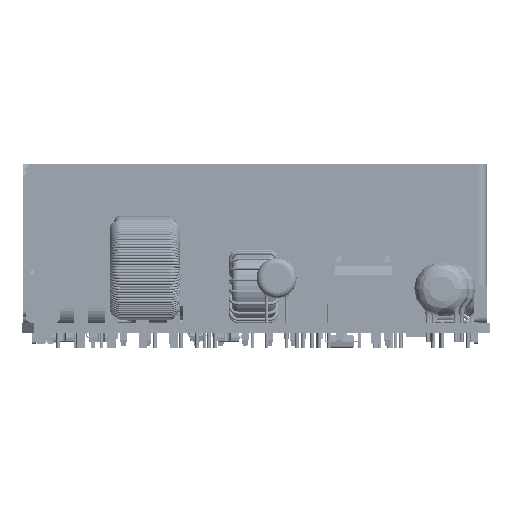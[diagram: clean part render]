
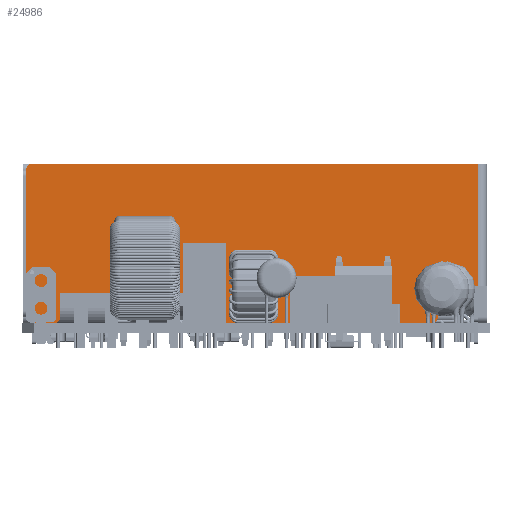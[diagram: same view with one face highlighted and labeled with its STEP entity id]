
A CAD part, left-side view. The second image highlights one B-rep face of the part: STEP entity #24986.
In plain terms, the highlighted planar face has unit normal (-1, 0, 0).
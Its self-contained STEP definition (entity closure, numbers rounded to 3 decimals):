
#13873=LINE('',#162734,#18253);
#13890=LINE('',#162778,#18270);
#13891=LINE('',#162782,#18271);
#13892=LINE('',#162786,#18272);
#13893=LINE('',#162790,#18273);
#13894=LINE('',#162792,#18274);
#13895=LINE('',#162794,#18275);
#13896=LINE('',#162798,#18276);
#13897=LINE('',#162802,#18277);
#13898=LINE('',#162804,#18278);
#18253=VECTOR('',#113183,1.);
#18270=VECTOR('',#113228,1.);
#18271=VECTOR('',#113233,1.);
#18272=VECTOR('',#113236,1.);
#18273=VECTOR('',#113239,1.);
#18274=VECTOR('',#113240,1.);
#18275=VECTOR('',#113241,1.);
#18276=VECTOR('',#113244,1.);
#18277=VECTOR('',#113247,1.);
#18278=VECTOR('',#113248,1.);
#24986=ADVANCED_FACE('',(#31009),#26631,.T.);
#26631=PLANE('',#90727);
#31009=FACE_OUTER_BOUND('',#36042,.T.);
#36042=EDGE_LOOP('',(#55399,#55400,#55401,#55402,#55403,#55404,#55405,#55406,
#55407,#55408,#55409,#55410,#55411,#55412,#55413));
#55399=ORIENTED_EDGE('',*,*,#74726,.F.);
#55400=ORIENTED_EDGE('',*,*,#74727,.T.);
#55401=ORIENTED_EDGE('',*,*,#74728,.F.);
#55402=ORIENTED_EDGE('',*,*,#74729,.T.);
#55403=ORIENTED_EDGE('',*,*,#74730,.T.);
#55404=ORIENTED_EDGE('',*,*,#74731,.T.);
#55405=ORIENTED_EDGE('',*,*,#74732,.T.);
#55406=ORIENTED_EDGE('',*,*,#74733,.T.);
#55407=ORIENTED_EDGE('',*,*,#74734,.F.);
#55408=ORIENTED_EDGE('',*,*,#74735,.T.);
#55409=ORIENTED_EDGE('',*,*,#74736,.T.);
#55410=ORIENTED_EDGE('',*,*,#74737,.T.);
#55411=ORIENTED_EDGE('',*,*,#74738,.T.);
#55412=ORIENTED_EDGE('',*,*,#74739,.F.);
#55413=ORIENTED_EDGE('',*,*,#74704,.F.);
#64311=VERTEX_POINT('',#162733);
#64312=VERTEX_POINT('',#162735);
#64324=VERTEX_POINT('',#162777);
#64325=VERTEX_POINT('',#162781);
#64326=VERTEX_POINT('',#162783);
#64327=VERTEX_POINT('',#162785);
#64328=VERTEX_POINT('',#162787);
#64329=VERTEX_POINT('',#162789);
#64330=VERTEX_POINT('',#162791);
#64331=VERTEX_POINT('',#162793);
#64332=VERTEX_POINT('',#162795);
#64333=VERTEX_POINT('',#162797);
#64334=VERTEX_POINT('',#162799);
#64335=VERTEX_POINT('',#162801);
#64336=VERTEX_POINT('',#162803);
#74704=EDGE_CURVE('',#64311,#64312,#13873,.T.);
#74726=EDGE_CURVE('',#64324,#64311,#13890,.T.);
#74727=EDGE_CURVE('',#64324,#64325,#81179,.T.);
#74728=EDGE_CURVE('',#64326,#64325,#13891,.T.);
#74729=EDGE_CURVE('',#64326,#64327,#81180,.T.);
#74730=EDGE_CURVE('',#64327,#64328,#13892,.T.);
#74731=EDGE_CURVE('',#64328,#64329,#81181,.T.);
#74732=EDGE_CURVE('',#64329,#64330,#13893,.T.);
#74733=EDGE_CURVE('',#64330,#64331,#13894,.T.);
#74734=EDGE_CURVE('',#64332,#64331,#13895,.T.);
#74735=EDGE_CURVE('',#64332,#64333,#81182,.T.);
#74736=EDGE_CURVE('',#64333,#64334,#13896,.T.);
#74737=EDGE_CURVE('',#64334,#64335,#81183,.T.);
#74738=EDGE_CURVE('',#64335,#64336,#13897,.T.);
#74739=EDGE_CURVE('',#64312,#64336,#13898,.T.);
#81179=CIRCLE('',#90722,1.);
#81180=CIRCLE('',#90723,1.);
#81181=CIRCLE('',#90724,1.);
#81182=CIRCLE('',#90725,1.);
#81183=CIRCLE('',#90726,1.);
#90722=AXIS2_PLACEMENT_3D('',#162780,#113231,#113232);
#90723=AXIS2_PLACEMENT_3D('',#162784,#113234,#113235);
#90724=AXIS2_PLACEMENT_3D('',#162788,#113237,#113238);
#90725=AXIS2_PLACEMENT_3D('',#162796,#113242,#113243);
#90726=AXIS2_PLACEMENT_3D('',#162800,#113245,#113246);
#90727=AXIS2_PLACEMENT_3D('',#162805,#113249,#113250);
#113183=DIRECTION('',(0.,-1.,0.));
#113228=DIRECTION('',(0.,0.,1.));
#113231=DIRECTION('',(-1.,0.,0.));
#113232=DIRECTION('',(0.,1.,0.));
#113233=DIRECTION('',(0.,1.,0.));
#113234=DIRECTION('',(-1.,0.,0.));
#113235=DIRECTION('',(0.,0.,-1.));
#113236=DIRECTION('',(0.,0.,1.));
#113237=DIRECTION('',(-1.,0.,0.));
#113238=DIRECTION('',(0.,-1.,0.));
#113239=DIRECTION('',(0.,1.,0.));
#113240=DIRECTION('',(0.,0.,1.));
#113241=DIRECTION('',(0.,1.,0.));
#113242=DIRECTION('',(-1.,0.,0.));
#113243=DIRECTION('',(0.,0.,-1.));
#113244=DIRECTION('',(0.,0.,1.));
#113245=DIRECTION('',(-1.,0.,0.));
#113246=DIRECTION('',(0.,-1.,0.));
#113247=DIRECTION('',(0.,1.,0.));
#113248=DIRECTION('',(0.,0.,-1.));
#113249=DIRECTION('',(-1.,0.,0.));
#113250=DIRECTION('',(0.,0.,-1.));
#162733=CARTESIAN_POINT('',(0.,26.,-1.5));
#162734=CARTESIAN_POINT('',(0.,26.,-1.5));
#162735=CARTESIAN_POINT('',(0.,6.,-1.5));
#162777=CARTESIAN_POINT('',(0.,26.,-74.));
#162778=CARTESIAN_POINT('',(0.,26.,-74.));
#162780=CARTESIAN_POINT('',(0.,25.,-74.));
#162781=CARTESIAN_POINT('',(0.,25.,-75.));
#162782=CARTESIAN_POINT('',(0.,1.,-75.));
#162783=CARTESIAN_POINT('',(0.,1.,-75.));
#162784=CARTESIAN_POINT('',(0.,1.,-74.));
#162785=CARTESIAN_POINT('',(0.,0.,-74.));
#162786=CARTESIAN_POINT('',(0.,0.,-74.));
#162787=CARTESIAN_POINT('',(0.,0.,-70.5));
#162788=CARTESIAN_POINT('',(0.,1.,-70.5));
#162789=CARTESIAN_POINT('',(0.,1.,-69.5));
#162790=CARTESIAN_POINT('',(0.,1.,-69.5));
#162791=CARTESIAN_POINT('',(0.,5.,-69.5));
#162792=CARTESIAN_POINT('',(0.,5.,-69.5));
#162793=CARTESIAN_POINT('',(0.,5.,-47.5));
#162794=CARTESIAN_POINT('',(0.,1.,-47.5));
#162795=CARTESIAN_POINT('',(0.,1.,-47.5));
#162796=CARTESIAN_POINT('',(0.,1.,-46.5));
#162797=CARTESIAN_POINT('',(0.,0.,-46.5));
#162798=CARTESIAN_POINT('',(0.,0.,-46.5));
#162799=CARTESIAN_POINT('',(0.,0.,-9.));
#162800=CARTESIAN_POINT('',(0.,1.,-9.));
#162801=CARTESIAN_POINT('',(0.,1.,-8.));
#162802=CARTESIAN_POINT('',(0.,1.,-8.));
#162803=CARTESIAN_POINT('',(0.,6.,-8.));
#162804=CARTESIAN_POINT('',(0.,6.,-1.5));
#162805=CARTESIAN_POINT('',(0.,0.,-75.));
